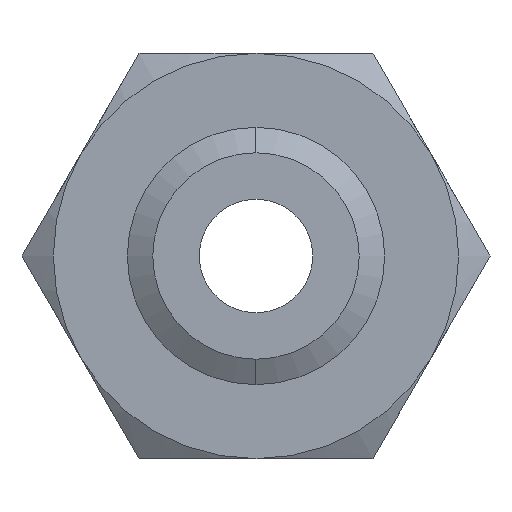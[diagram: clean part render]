
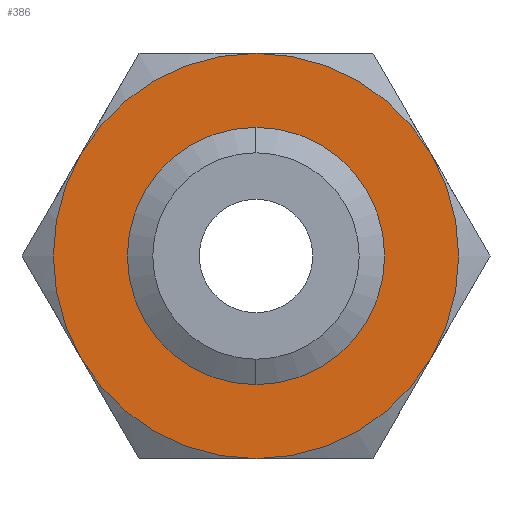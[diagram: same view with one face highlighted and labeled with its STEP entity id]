
A CAD part, front view. The second image highlights one B-rep face of the part: STEP entity #386.
In plain terms, the highlighted planar face has unit normal (0, -1, 0).
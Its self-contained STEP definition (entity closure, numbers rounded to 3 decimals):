
#321 = ORIENTED_EDGE ( 'NONE', *, *, #322, .F. ) ;
#322 = EDGE_CURVE ( 'NONE', #323, #390, #1044, .T. ) ;
#323 = VERTEX_POINT ( 'NONE', #1039 ) ;
#324 = EDGE_LOOP ( 'NONE', ( #342, #339 ) ) ;
#339 = ORIENTED_EDGE ( 'NONE', *, *, #341, .F. ) ;
#341 = EDGE_CURVE ( 'NONE', #351, #350, #1077, .T. ) ;
#342 = ORIENTED_EDGE ( 'NONE', *, *, #349, .F. ) ;
#349 = EDGE_CURVE ( 'NONE', #350, #351, #1066, .T. ) ;
#350 = VERTEX_POINT ( 'NONE', #1117 ) ;
#351 = VERTEX_POINT ( 'NONE', #1116 ) ;
#381 = EDGE_CURVE ( 'NONE', #388, #396, #1162, .T. ) ;
#382 = ORIENTED_EDGE ( 'NONE', *, *, #381, .F. ) ;
#384 = EDGE_CURVE ( 'NONE', #390, #388, #1148, .T. ) ;
#386 = ADVANCED_FACE ( 'NONE', ( #1203, #1202 ), #1201, .F. ) ;
#387 = ORIENTED_EDGE ( 'NONE', *, *, #384, .F. ) ;
#388 = VERTEX_POINT ( 'NONE', #1198 ) ;
#389 = EDGE_LOOP ( 'NONE', ( #387, #321, #395, #398, #394, #382 ) ) ;
#390 = VERTEX_POINT ( 'NONE', #1195 ) ;
#392 = VERTEX_POINT ( 'NONE', #1194 ) ;
#393 = VERTEX_POINT ( 'NONE', #1193 ) ;
#394 = ORIENTED_EDGE ( 'NONE', *, *, #397, .F. ) ;
#395 = ORIENTED_EDGE ( 'NONE', *, *, #400, .F. ) ;
#396 = VERTEX_POINT ( 'NONE', #1192 ) ;
#397 = EDGE_CURVE ( 'NONE', #396, #393, #1190, .T. ) ;
#398 = ORIENTED_EDGE ( 'NONE', *, *, #399, .F. ) ;
#399 = EDGE_CURVE ( 'NONE', #393, #392, #1184, .T. ) ;
#400 = EDGE_CURVE ( 'NONE', #392, #323, #1242, .T. ) ;
#1039 = CARTESIAN_POINT ( 'NONE',  ( -21.651, 0., 12.5 ) ) ;
#1040 = DIRECTION ( 'NONE',  ( 0., 0., 1. ) ) ;
#1041 = DIRECTION ( 'NONE',  ( 0., 1., 0. ) ) ;
#1042 = CARTESIAN_POINT ( 'NONE',  ( 0., 0., 0. ) ) ;
#1043 = AXIS2_PLACEMENT_3D ( 'NONE', #1042, #1041, #1040 ) ;
#1044 = CIRCLE ( 'NONE', #1043, 25. ) ;
#1060 = AXIS2_PLACEMENT_3D ( 'NONE', #1120, #1119, #1118 ) ;
#1066 = CIRCLE ( 'NONE', #1060, 12.731 ) ;
#1073 = DIRECTION ( 'NONE',  ( 0., 0., -1. ) ) ;
#1074 = DIRECTION ( 'NONE',  ( 0., -1., 0. ) ) ;
#1075 = CARTESIAN_POINT ( 'NONE',  ( 0., 0., 0. ) ) ;
#1076 = AXIS2_PLACEMENT_3D ( 'NONE', #1075, #1074, #1073 ) ;
#1077 = CIRCLE ( 'NONE', #1076, 12.731 ) ;
#1116 = CARTESIAN_POINT ( 'NONE',  ( 0., 0., 12.731 ) ) ;
#1117 = CARTESIAN_POINT ( 'NONE',  ( 0., 0., -12.731 ) ) ;
#1118 = DIRECTION ( 'NONE',  ( 0., 0., -1. ) ) ;
#1119 = DIRECTION ( 'NONE',  ( 0., -1., 0. ) ) ;
#1120 = CARTESIAN_POINT ( 'NONE',  ( 0., 0., 0. ) ) ;
#1148 = CIRCLE ( 'NONE', #1211, 25. ) ;
#1152 = DIRECTION ( 'NONE',  ( 0., 0., 1. ) ) ;
#1153 = DIRECTION ( 'NONE',  ( 0., 1., 0. ) ) ;
#1154 = CARTESIAN_POINT ( 'NONE',  ( 0., 0., 0. ) ) ;
#1155 = AXIS2_PLACEMENT_3D ( 'NONE', #1154, #1153, #1152 ) ;
#1162 = CIRCLE ( 'NONE', #1155, 25. ) ;
#1181 = DIRECTION ( 'NONE',  ( 0., 0., 1. ) ) ;
#1182 = DIRECTION ( 'NONE',  ( 0., 1., 0. ) ) ;
#1183 = AXIS2_PLACEMENT_3D ( 'NONE', #1191, #1182, #1181 ) ;
#1184 = CIRCLE ( 'NONE', #1183, 25. ) ;
#1186 = DIRECTION ( 'NONE',  ( 0., 0., 1. ) ) ;
#1187 = DIRECTION ( 'NONE',  ( 0., 1., 0. ) ) ;
#1188 = CARTESIAN_POINT ( 'NONE',  ( 0., 0., 0. ) ) ;
#1189 = AXIS2_PLACEMENT_3D ( 'NONE', #1188, #1187, #1186 ) ;
#1190 = CIRCLE ( 'NONE', #1189, 25. ) ;
#1191 = CARTESIAN_POINT ( 'NONE',  ( 0., 0., 0. ) ) ;
#1192 = CARTESIAN_POINT ( 'NONE',  ( 21.651, 0., -12.5 ) ) ;
#1193 = CARTESIAN_POINT ( 'NONE',  ( 0., 0., -25. ) ) ;
#1194 = CARTESIAN_POINT ( 'NONE',  ( -21.651, 0., -12.5 ) ) ;
#1195 = CARTESIAN_POINT ( 'NONE',  ( 0., 0., 25. ) ) ;
#1196 = DIRECTION ( 'NONE',  ( 0., 0., 1. ) ) ;
#1197 = DIRECTION ( 'NONE',  ( 0., 1., 0. ) ) ;
#1198 = CARTESIAN_POINT ( 'NONE',  ( 21.651, 0., 12.5 ) ) ;
#1199 = CARTESIAN_POINT ( 'NONE',  ( 14.434, 0., -25. ) ) ;
#1200 = AXIS2_PLACEMENT_3D ( 'NONE', #1199, #1197, #1196 ) ;
#1201 = PLANE ( 'NONE',  #1200 ) ;
#1202 = FACE_BOUND ( 'NONE', #324, .T. ) ;
#1203 = FACE_OUTER_BOUND ( 'NONE', #389, .T. ) ;
#1208 = DIRECTION ( 'NONE',  ( 0., 0., 1. ) ) ;
#1209 = DIRECTION ( 'NONE',  ( 0., 1., 0. ) ) ;
#1210 = CARTESIAN_POINT ( 'NONE',  ( 0., 0., 0. ) ) ;
#1211 = AXIS2_PLACEMENT_3D ( 'NONE', #1210, #1209, #1208 ) ;
#1238 = DIRECTION ( 'NONE',  ( 0., 0., 1. ) ) ;
#1239 = DIRECTION ( 'NONE',  ( 0., 1., 0. ) ) ;
#1240 = CARTESIAN_POINT ( 'NONE',  ( 0., 0., 0. ) ) ;
#1241 = AXIS2_PLACEMENT_3D ( 'NONE', #1240, #1239, #1238 ) ;
#1242 = CIRCLE ( 'NONE', #1241, 25. ) ;
